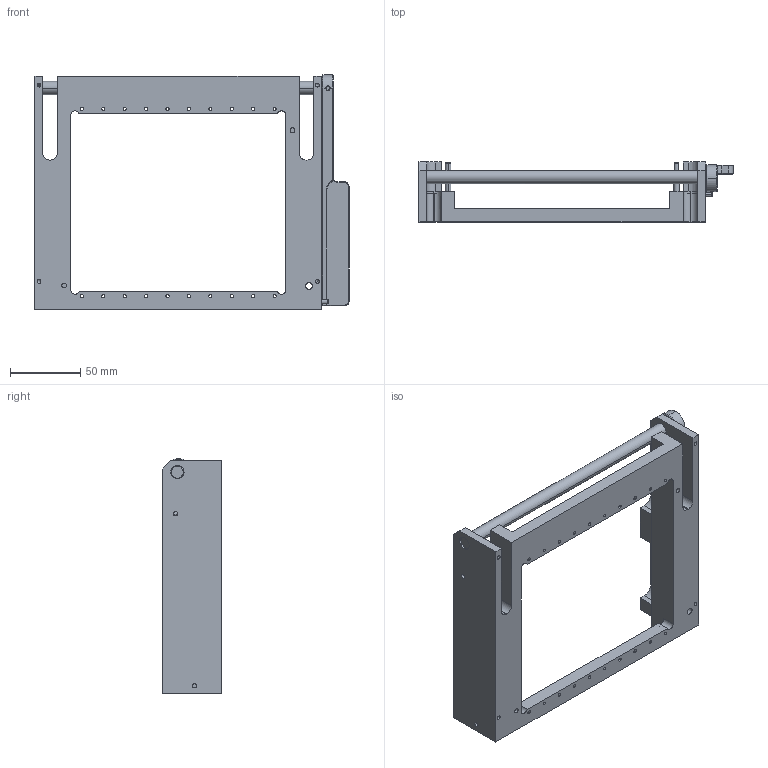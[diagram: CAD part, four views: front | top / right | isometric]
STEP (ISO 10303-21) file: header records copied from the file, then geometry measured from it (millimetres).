
FILE_DESCRIPTION (( 'STEP AP214' ), '1' );
FILE_NAME ('310104135.STEP', '2022-04-06T18:10:27', ( '' ), ( '' ), 'SwSTEP 2.0', 'SolidWorks 2021', '' );
FILE_SCHEMA (( 'AUTOMOTIVE_DESIGN' ));
Length unit declared in the file: inch
Products named in the file (1): 310104135
Bounding box: 223.52 x 42.67 x 166.88 mm (x, y, z)
Volume: 310549.5 mm3; surface area: 90352.3 mm2
Topology: 7 solids, 7 shells, 311 faces, 771 edges, 490 vertices
Faces by surface type: cylinder 160, plane 109, cone 37, torus 4, bspline 1
Entity records: 13822 total; most frequent: CARTESIAN_POINT 1917, DIRECTION 1712, ORIENTED_EDGE 1524, EDGE_CURVE 762, AXIS2_PLACEMENT_3D 660, VERTEX_POINT 490, EDGE_LOOP 402, LINE 392
